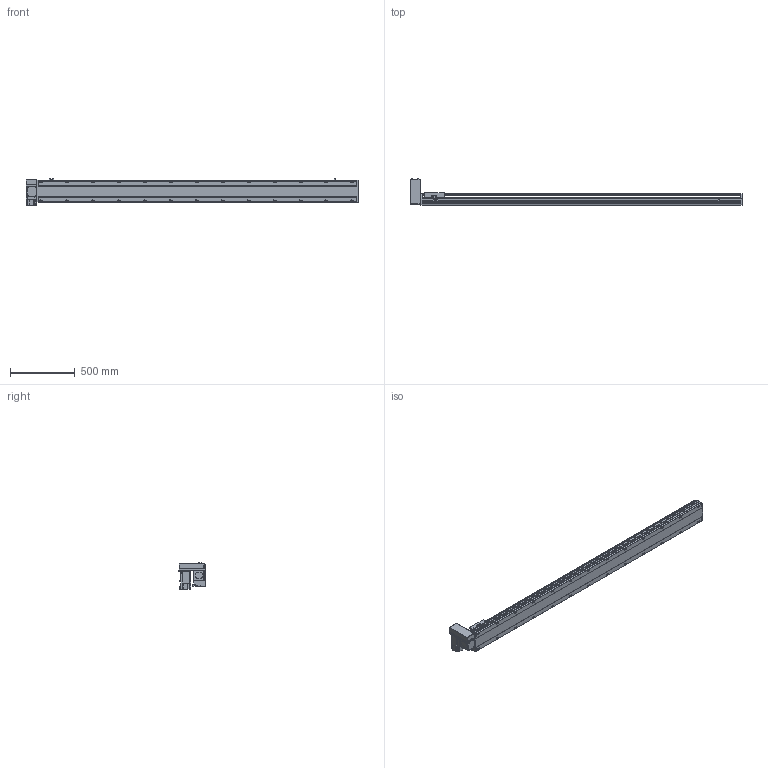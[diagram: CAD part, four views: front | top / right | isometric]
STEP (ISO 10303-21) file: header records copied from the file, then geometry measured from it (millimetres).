
FILE_DESCRIPTION( ( 'STEP AP214' ), '1' );
FILE_NAME( 'x:/temp/worker_5/temp/exporttempdir_3988_140_yQgFF/format_0/PBS170-P40-S2200-RU-T75-C1-N(0).stp', '2022-06-08T06:00:16', ( 'License CC BY-ND 4.0' ), ( 'CADENAS' ), ' ', 'PARTsolutions', ' ' );
FILE_SCHEMA( ( 'AUTOMOTIVE_DESIGN { 1 0 10303 214 1 1 1 1 }' ) );
Length unit declared in the file: millimetre
Products named in the file (7): PBS170-P40-S2200-RU-T75-C1-N(0); _PBS170-S2200()_body; _PBS170T-RU_motors; _T75-p1; _PBS170_sliser; _PBS170_plant; _PBS170_sensor
Assembly tree (8 placements, depth 2):
  PBS170-P40-S2200-RU-T75-C1-N(0)
    _PBS170-S2200()_body
    _PBS170T-RU_motors
    _T75-p1
    _PBS170_sliser
    _PBS170_plant
    _PBS170_sensor  x3
Bounding box: 2563 x 206 x 205.3 mm (x, y, z)
Volume: 19543025.4 mm3; surface area: 2470893.9 mm2
Topology: 8 solids, 8 shells, 1162 faces, 3075 edges, 2004 vertices
Faces by surface type: plane 717, cylinder 379, cone 56, sphere 8, torus 2
Full cylindrical faces by diameter (mm): 3.242 x4, 4 x2, 4.4 x4, 4.5 x6, 4.917 x4, 6 x9, 6.647 x34, 7 x2, 7.5 x4, 8 x8, 8.5 x26, 10 x4, 10.5 x26, 11 x2, 30 x2, 40 x1, 70 x1
Entity records: 42950 total; most frequent: CARTESIAN_POINT 7061, DIRECTION 5650, ORIENTED_EDGE 5328, EDGE_CURVE 2664, AXIS2_PLACEMENT_3D 1987, VERTEX_POINT 1850, LINE 1676, VECTOR 1676
